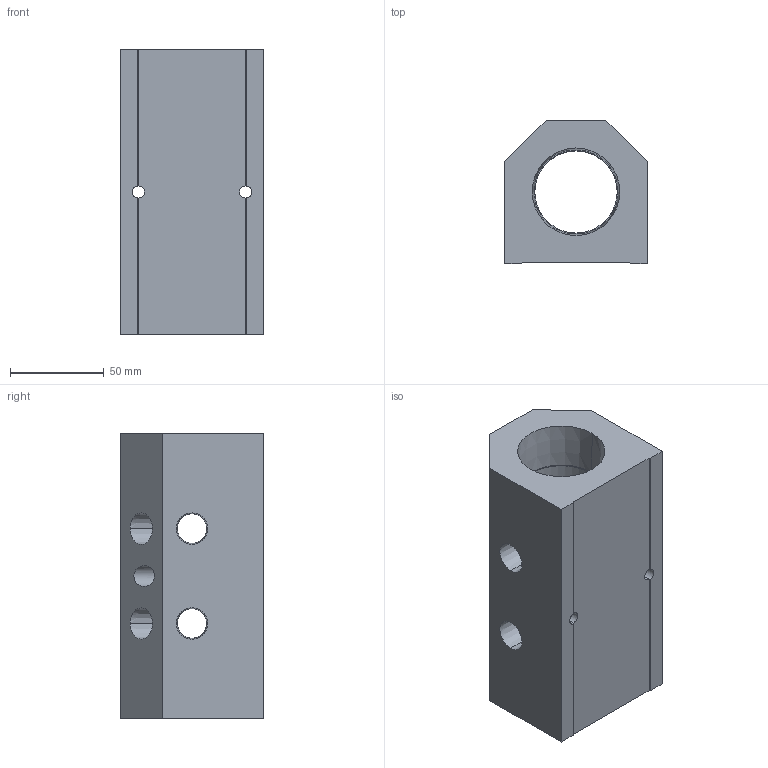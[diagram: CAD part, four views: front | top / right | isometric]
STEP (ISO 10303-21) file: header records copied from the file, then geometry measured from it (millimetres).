
FILE_DESCRIPTION (( 'STEP AP214' ), '1' );
FILE_NAME ('ALM2ABCDE-N6N24-152B.step', '2022-02-07T09:08:08', ( '' ), ( '' ), 'SwSTEP 2.0', 'SolidWorks 2020', '' );
FILE_SCHEMA (( 'AUTOMOTIVE_DESIGN' ));
Length unit declared in the file: millimetre
Products named in the file (1): ALM2ABCDE-N6N24-152B
Bounding box: 76.2 x 76.2 x 152 mm (x, y, z)
Volume: 526070.6 mm3; surface area: 78210.2 mm2
Topology: 1 solids, 1 shells, 343 faces, 912 edges, 604 vertices
Faces by surface type: plane 237, bspline 72, cone 24, cylinder 10
Entity records: 19409 total; most frequent: CARTESIAN_POINT 7942, ORIENTED_EDGE 1824, DIRECTION 1328, EDGE_CURVE 912, VECTOR 696, LINE 696, VERTEX_POINT 604, EDGE_LOOP 402
